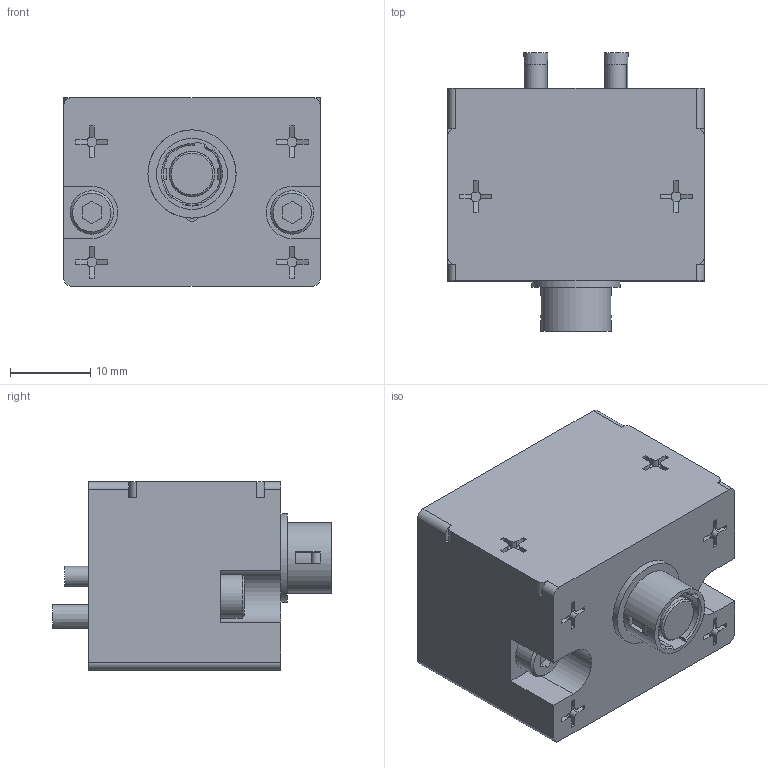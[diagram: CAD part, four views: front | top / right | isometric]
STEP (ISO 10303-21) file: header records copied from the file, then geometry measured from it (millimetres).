
FILE_DESCRIPTION(('STEP AP214'),'1');
FILE_NAME('KHB-3RS-D14C_ver1.stp','2026-04-24T00:28:50',(' '),(' '),'Spatial InterOp 3D',' ',' ');
FILE_SCHEMA(('AUTOMOTIVE_DESIGN { 1 0 10303 214 1 1 1 1 }'));
Length unit declared in the file: millimetre
Products named in the file (1): KHB-3RS-D14C_ver1
Bounding box: 32 x 34.8 x 23.5 mm (x, y, z)
Volume: 17593.7 mm3; surface area: 6685 mm2
Topology: 1 solids, 21 shells, 502 faces, 1236 edges, 807 vertices
Faces by surface type: plane 352, cylinder 124, cone 26
Full cylindrical faces by diameter (mm): 0.8 x2, 1.02 x4, 1.8 x4, 2 x4, 2.25 x6, 2.5 x8, 3 x8, 3.5 x4, 5.41 x4, 5.6 x1, 5.7 x1, 6.5 x2, 8 x1, 8.85 x1, 11 x1
Entity records: 19632 total; most frequent: CARTESIAN_POINT 2459, DIRECTION 2445, ORIENTED_EDGE 2262, EDGE_CURVE 1131, AXIS2_PLACEMENT_3D 823, LINE 799, VECTOR 799, STYLED_ITEM 793
